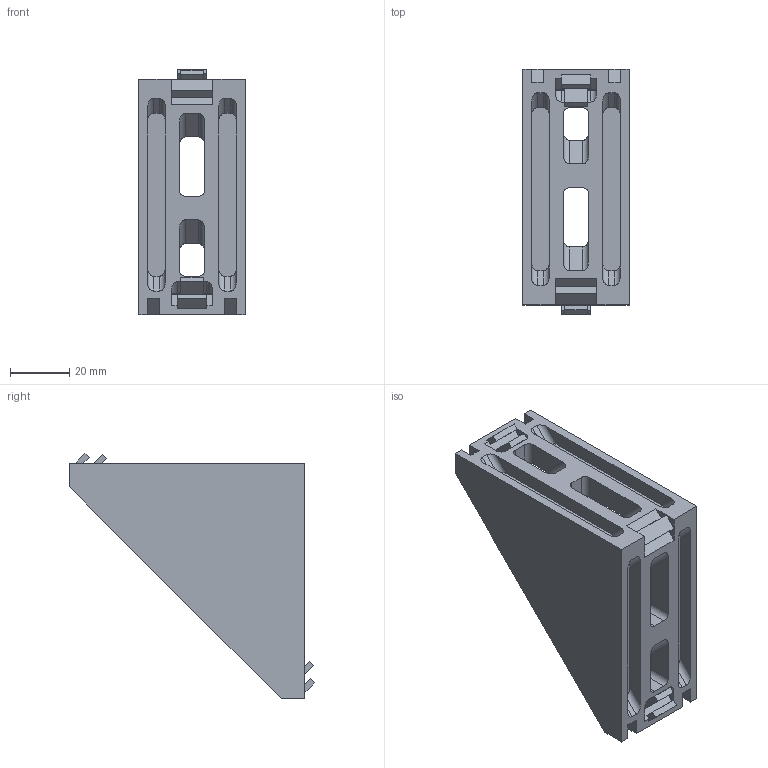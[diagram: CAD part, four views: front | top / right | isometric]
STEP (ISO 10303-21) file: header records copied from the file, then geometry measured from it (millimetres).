
FILE_DESCRIPTION (( 'STEP AP203' ), '1' );
FILE_NAME ('1059.STEP', '2016-03-27T14:35:11', ( '' ), ( '' ), 'SwSTEP 2.0', 'SolidWorks 2014', '' );
FILE_SCHEMA (( 'CONFIG_CONTROL_DESIGN' ));
Length unit declared in the file: millimetre
Products named in the file (1): 1059
Bounding box: 36 x 82.8 x 82.87 mm (x, y, z)
Volume: 43599.6 mm3; surface area: 22564.1 mm2
Topology: 1 solids, 1 shells, 145 faces, 397 edges, 260 vertices
Faces by surface type: plane 109, cylinder 36
Entity records: 4588 total; most frequent: CARTESIAN_POINT 971, ORIENTED_EDGE 794, DIRECTION 649, EDGE_CURVE 397, VECTOR 325, LINE 325, VERTEX_POINT 260, AXIS2_PLACEMENT_3D 162
